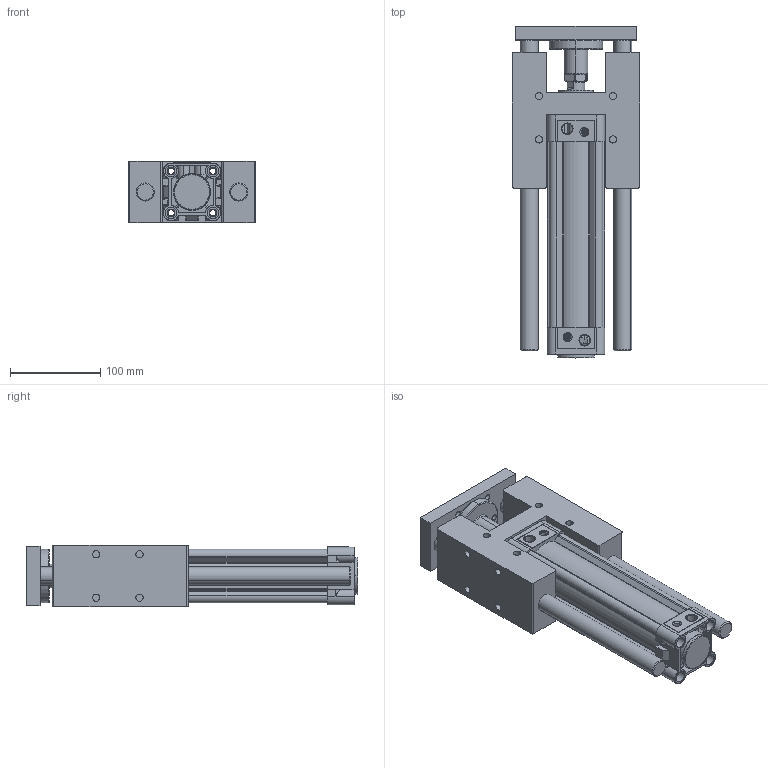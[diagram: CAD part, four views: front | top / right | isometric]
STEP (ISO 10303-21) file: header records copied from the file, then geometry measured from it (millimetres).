
FILE_DESCRIPTION (( 'STEP AP203' ), '1' );
FILE_NAME ('KDNT50X160H-YATAK.STEP', '2016-05-18T10:22:06', ( 'user' ), ( '' ), 'SwSTEP 2.0', 'SolidWorks 2013', '' );
FILE_SCHEMA (( 'CONFIG_CONTROL_DESIGN' ));
Length unit declared in the file: millimetre
Products named in the file (11): SOMUN 50; DNC-H-YATAK M尳 50X160; KDNT50X160H-YATAK; DNC-H-YATAK TABLA 50; DNC-H-YATAK MÝL YATAÐI 50; ARKA KAPAK 50; KDNT 50X160 BORU; ORTA PÝSTON 50; 烰 KAPAK  50; Piston Mili 50x160; DNC-H-YATAK 50
Assembly tree (11 placements, depth 2):
  KDNT50X160H-YATAK
    DNC-H-YATAK 50
    DNC-H-YATAK M尳 50X160  x2
    DNC-H-YATAK TABLA 50
    DNC-H-YATAK MÝL YATAÐI 50
    ARKA KAPAK 50
    KDNT 50X160 BORU
    ORTA PÝSTON 50
    烰 KAPAK  50
    Piston Mili 50x160
    SOMUN 50
Bounding box: 142 x 368.4 x 68.5 mm (x, y, z)
Volume: 1574411.9 mm3; surface area: 426265.3 mm2
Topology: 18 solids, 18 shells, 973 faces, 2485 edges, 1637 vertices
Faces by surface type: cylinder 496, plane 351, cone 80, bspline 34, torus 12
Entity records: 39109 total; most frequent: CARTESIAN_POINT 15107, ORIENTED_EDGE 4934, DIRECTION 4438, EDGE_CURVE 2467, AXIS2_PLACEMENT_3D 1696, VERTEX_POINT 1629, EDGE_LOOP 1152, VECTOR 1046
